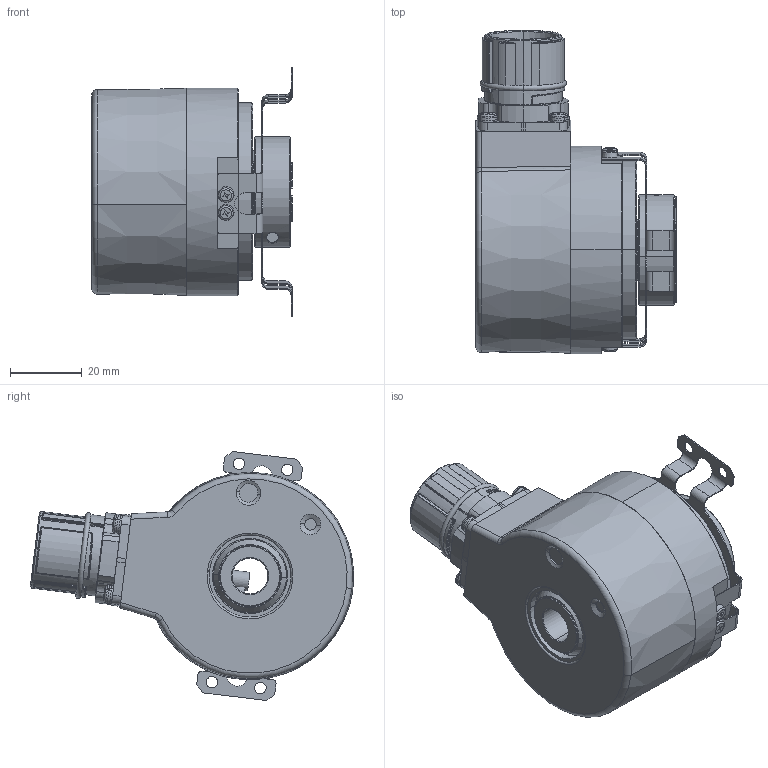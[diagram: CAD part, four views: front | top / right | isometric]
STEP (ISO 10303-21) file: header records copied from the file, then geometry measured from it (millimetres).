
FILE_DESCRIPTION (( 'STEP AP203' ), '1' );
FILE_NAME ('8.5834FSX.B3X4.XXXX.STEP', '2013-08-01T06:11:04', ( 'Admin' ), ( 'Fritz Kübler GmbH' ), 'SwSTEP 2.0', 'SolidWorks 2012', '' );
FILE_SCHEMA (( 'CONFIG_CONTROL_DESIGN' ));
Length unit declared in the file: millimetre
Products named in the file (1): 8.5834FSX.B3X4.XXXX
Bounding box: 56 x 90.43 x 69.69 mm (x, y, z)
Volume: 84744.1 mm3; surface area: 58206.7 mm2
Topology: 37 solids, 38 shells, 1784 faces, 4300 edges, 2608 vertices
Faces by surface type: cylinder 685, plane 544, cone 249, torus 143, sphere 100, bspline 63
Entity records: 55104 total; most frequent: CARTESIAN_POINT 13483, DIRECTION 9290, ORIENTED_EDGE 8288, EDGE_CURVE 4144, AXIS2_PLACEMENT_3D 3804, VERTEX_POINT 2564, CIRCLE 2082, EDGE_LOOP 2036
